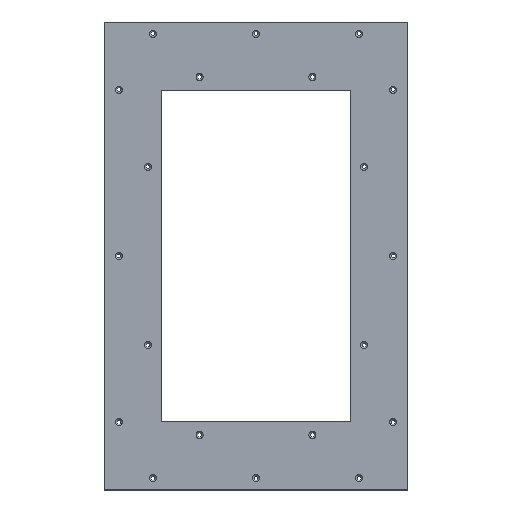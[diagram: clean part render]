
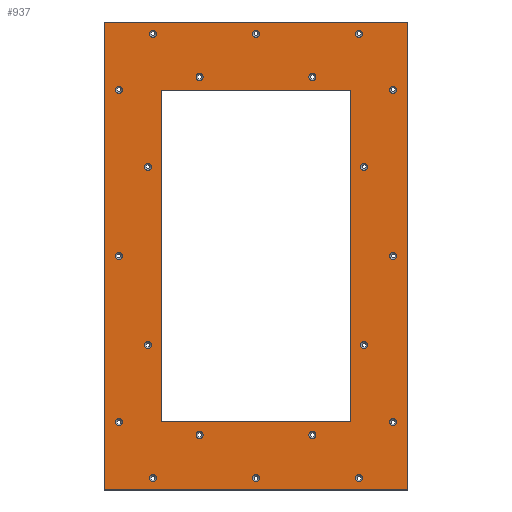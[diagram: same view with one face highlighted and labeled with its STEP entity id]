
A CAD part, top view. The second image highlights one B-rep face of the part: STEP entity #937.
In plain terms, the highlighted planar face has unit normal (0, 0, 1).
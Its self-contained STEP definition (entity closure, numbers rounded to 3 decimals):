
#19=FACE_BOUND('',#190,.T.);
#20=FACE_BOUND('',#191,.T.);
#21=FACE_BOUND('',#192,.T.);
#22=FACE_BOUND('',#193,.T.);
#23=FACE_BOUND('',#194,.T.);
#24=FACE_BOUND('',#195,.T.);
#25=FACE_BOUND('',#196,.T.);
#26=FACE_BOUND('',#197,.T.);
#27=FACE_BOUND('',#198,.T.);
#28=FACE_BOUND('',#199,.T.);
#29=FACE_BOUND('',#200,.T.);
#30=FACE_BOUND('',#201,.T.);
#31=FACE_BOUND('',#202,.T.);
#32=FACE_BOUND('',#203,.T.);
#33=FACE_BOUND('',#204,.T.);
#34=FACE_BOUND('',#205,.T.);
#35=FACE_BOUND('',#206,.T.);
#36=FACE_BOUND('',#207,.T.);
#37=FACE_BOUND('',#208,.T.);
#38=FACE_BOUND('',#209,.T.);
#39=FACE_BOUND('',#210,.T.);
#69=PLANE('',#1062);
#139=FACE_OUTER_BOUND('',#189,.T.);
#189=EDGE_LOOP('',(#813,#814,#815,#816));
#190=EDGE_LOOP('',(#817));
#191=EDGE_LOOP('',(#818));
#192=EDGE_LOOP('',(#819));
#193=EDGE_LOOP('',(#820));
#194=EDGE_LOOP('',(#821));
#195=EDGE_LOOP('',(#822));
#196=EDGE_LOOP('',(#823));
#197=EDGE_LOOP('',(#824));
#198=EDGE_LOOP('',(#825));
#199=EDGE_LOOP('',(#826));
#200=EDGE_LOOP('',(#827));
#201=EDGE_LOOP('',(#828));
#202=EDGE_LOOP('',(#829));
#203=EDGE_LOOP('',(#830));
#204=EDGE_LOOP('',(#831));
#205=EDGE_LOOP('',(#832));
#206=EDGE_LOOP('',(#833));
#207=EDGE_LOOP('',(#834));
#208=EDGE_LOOP('',(#835));
#209=EDGE_LOOP('',(#836));
#210=EDGE_LOOP('',(#837,#838,#839,#840));
#273=LINE('',#1560,#337);
#277=LINE('',#1568,#341);
#280=LINE('',#1574,#344);
#283=LINE('',#1579,#347);
#285=LINE('',#1584,#349);
#289=LINE('',#1592,#353);
#292=LINE('',#1598,#356);
#295=LINE('',#1603,#359);
#337=VECTOR('',#1311,10.);
#341=VECTOR('',#1317,10.);
#344=VECTOR('',#1322,10.);
#347=VECTOR('',#1327,10.);
#349=VECTOR('',#1331,10.);
#353=VECTOR('',#1337,10.);
#356=VECTOR('',#1342,10.);
#359=VECTOR('',#1347,10.);
#361=CIRCLE('',#955,3.75);
#364=CIRCLE('',#960,3.75);
#367=CIRCLE('',#965,3.75);
#370=CIRCLE('',#970,3.75);
#373=CIRCLE('',#975,3.75);
#376=CIRCLE('',#980,3.75);
#379=CIRCLE('',#985,3.75);
#382=CIRCLE('',#990,3.75);
#385=CIRCLE('',#995,3.75);
#388=CIRCLE('',#1000,3.75);
#391=CIRCLE('',#1005,3.75);
#394=CIRCLE('',#1010,3.75);
#397=CIRCLE('',#1015,3.75);
#400=CIRCLE('',#1020,3.75);
#403=CIRCLE('',#1025,3.75);
#406=CIRCLE('',#1030,3.75);
#409=CIRCLE('',#1035,3.75);
#412=CIRCLE('',#1040,3.75);
#415=CIRCLE('',#1045,3.75);
#418=CIRCLE('',#1050,3.75);
#421=VERTEX_POINT('',#1358);
#424=VERTEX_POINT('',#1368);
#427=VERTEX_POINT('',#1378);
#430=VERTEX_POINT('',#1388);
#433=VERTEX_POINT('',#1398);
#436=VERTEX_POINT('',#1408);
#439=VERTEX_POINT('',#1418);
#442=VERTEX_POINT('',#1428);
#445=VERTEX_POINT('',#1438);
#448=VERTEX_POINT('',#1448);
#451=VERTEX_POINT('',#1458);
#454=VERTEX_POINT('',#1468);
#457=VERTEX_POINT('',#1478);
#460=VERTEX_POINT('',#1488);
#463=VERTEX_POINT('',#1498);
#466=VERTEX_POINT('',#1508);
#469=VERTEX_POINT('',#1518);
#472=VERTEX_POINT('',#1528);
#475=VERTEX_POINT('',#1538);
#478=VERTEX_POINT('',#1548);
#481=VERTEX_POINT('',#1558);
#482=VERTEX_POINT('',#1559);
#485=VERTEX_POINT('',#1567);
#487=VERTEX_POINT('',#1573);
#489=VERTEX_POINT('',#1582);
#490=VERTEX_POINT('',#1583);
#493=VERTEX_POINT('',#1591);
#495=VERTEX_POINT('',#1597);
#497=EDGE_CURVE('',#421,#421,#361,.T.);
#502=EDGE_CURVE('',#424,#424,#364,.T.);
#507=EDGE_CURVE('',#427,#427,#367,.T.);
#512=EDGE_CURVE('',#430,#430,#370,.T.);
#517=EDGE_CURVE('',#433,#433,#373,.T.);
#522=EDGE_CURVE('',#436,#436,#376,.T.);
#527=EDGE_CURVE('',#439,#439,#379,.T.);
#532=EDGE_CURVE('',#442,#442,#382,.T.);
#537=EDGE_CURVE('',#445,#445,#385,.T.);
#542=EDGE_CURVE('',#448,#448,#388,.T.);
#547=EDGE_CURVE('',#451,#451,#391,.T.);
#552=EDGE_CURVE('',#454,#454,#394,.T.);
#557=EDGE_CURVE('',#457,#457,#397,.T.);
#562=EDGE_CURVE('',#460,#460,#400,.T.);
#567=EDGE_CURVE('',#463,#463,#403,.T.);
#572=EDGE_CURVE('',#466,#466,#406,.T.);
#577=EDGE_CURVE('',#469,#469,#409,.T.);
#582=EDGE_CURVE('',#472,#472,#412,.T.);
#587=EDGE_CURVE('',#475,#475,#415,.T.);
#592=EDGE_CURVE('',#478,#478,#418,.T.);
#597=EDGE_CURVE('',#481,#482,#273,.T.);
#601=EDGE_CURVE('',#482,#485,#277,.T.);
#604=EDGE_CURVE('',#485,#487,#280,.T.);
#607=EDGE_CURVE('',#487,#481,#283,.T.);
#609=EDGE_CURVE('',#489,#490,#285,.T.);
#613=EDGE_CURVE('',#493,#489,#289,.T.);
#616=EDGE_CURVE('',#495,#493,#292,.T.);
#619=EDGE_CURVE('',#490,#495,#295,.T.);
#813=ORIENTED_EDGE('',*,*,#619,.F.);
#814=ORIENTED_EDGE('',*,*,#609,.F.);
#815=ORIENTED_EDGE('',*,*,#613,.F.);
#816=ORIENTED_EDGE('',*,*,#616,.F.);
#817=ORIENTED_EDGE('',*,*,#497,.T.);
#818=ORIENTED_EDGE('',*,*,#502,.T.);
#819=ORIENTED_EDGE('',*,*,#507,.T.);
#820=ORIENTED_EDGE('',*,*,#512,.T.);
#821=ORIENTED_EDGE('',*,*,#517,.T.);
#822=ORIENTED_EDGE('',*,*,#522,.T.);
#823=ORIENTED_EDGE('',*,*,#527,.T.);
#824=ORIENTED_EDGE('',*,*,#532,.T.);
#825=ORIENTED_EDGE('',*,*,#537,.T.);
#826=ORIENTED_EDGE('',*,*,#542,.T.);
#827=ORIENTED_EDGE('',*,*,#547,.T.);
#828=ORIENTED_EDGE('',*,*,#552,.T.);
#829=ORIENTED_EDGE('',*,*,#557,.T.);
#830=ORIENTED_EDGE('',*,*,#562,.T.);
#831=ORIENTED_EDGE('',*,*,#567,.T.);
#832=ORIENTED_EDGE('',*,*,#572,.T.);
#833=ORIENTED_EDGE('',*,*,#577,.T.);
#834=ORIENTED_EDGE('',*,*,#582,.T.);
#835=ORIENTED_EDGE('',*,*,#587,.T.);
#836=ORIENTED_EDGE('',*,*,#592,.T.);
#837=ORIENTED_EDGE('',*,*,#607,.T.);
#838=ORIENTED_EDGE('',*,*,#597,.T.);
#839=ORIENTED_EDGE('',*,*,#601,.T.);
#840=ORIENTED_EDGE('',*,*,#604,.T.);
#937=ADVANCED_FACE('',(#139,#19,#20,#21,#22,#23,#24,#25,#26,#27,#28,#29,
#30,#31,#32,#33,#34,#35,#36,#37,#38,#39),#69,.T.);
#955=AXIS2_PLACEMENT_3D('',#1359,#1071,#1072);
#960=AXIS2_PLACEMENT_3D('',#1369,#1083,#1084);
#965=AXIS2_PLACEMENT_3D('',#1379,#1095,#1096);
#970=AXIS2_PLACEMENT_3D('',#1389,#1107,#1108);
#975=AXIS2_PLACEMENT_3D('',#1399,#1119,#1120);
#980=AXIS2_PLACEMENT_3D('',#1409,#1131,#1132);
#985=AXIS2_PLACEMENT_3D('',#1419,#1143,#1144);
#990=AXIS2_PLACEMENT_3D('',#1429,#1155,#1156);
#995=AXIS2_PLACEMENT_3D('',#1439,#1167,#1168);
#1000=AXIS2_PLACEMENT_3D('',#1449,#1179,#1180);
#1005=AXIS2_PLACEMENT_3D('',#1459,#1191,#1192);
#1010=AXIS2_PLACEMENT_3D('',#1469,#1203,#1204);
#1015=AXIS2_PLACEMENT_3D('',#1479,#1215,#1216);
#1020=AXIS2_PLACEMENT_3D('',#1489,#1227,#1228);
#1025=AXIS2_PLACEMENT_3D('',#1499,#1239,#1240);
#1030=AXIS2_PLACEMENT_3D('',#1509,#1251,#1252);
#1035=AXIS2_PLACEMENT_3D('',#1519,#1263,#1264);
#1040=AXIS2_PLACEMENT_3D('',#1529,#1275,#1276);
#1045=AXIS2_PLACEMENT_3D('',#1539,#1287,#1288);
#1050=AXIS2_PLACEMENT_3D('',#1549,#1299,#1300);
#1062=AXIS2_PLACEMENT_3D('',#1605,#1349,#1350);
#1071=DIRECTION('center_axis',(0.,0.,-1.));
#1072=DIRECTION('ref_axis',(1.,0.,0.));
#1083=DIRECTION('center_axis',(0.,0.,-1.));
#1084=DIRECTION('ref_axis',(1.,0.,0.));
#1095=DIRECTION('center_axis',(0.,0.,-1.));
#1096=DIRECTION('ref_axis',(1.,0.,0.));
#1107=DIRECTION('center_axis',(0.,0.,-1.));
#1108=DIRECTION('ref_axis',(1.,0.,0.));
#1119=DIRECTION('center_axis',(0.,0.,-1.));
#1120=DIRECTION('ref_axis',(1.,0.,0.));
#1131=DIRECTION('center_axis',(0.,0.,-1.));
#1132=DIRECTION('ref_axis',(1.,0.,0.));
#1143=DIRECTION('center_axis',(0.,0.,-1.));
#1144=DIRECTION('ref_axis',(1.,0.,0.));
#1155=DIRECTION('center_axis',(0.,0.,-1.));
#1156=DIRECTION('ref_axis',(1.,0.,0.));
#1167=DIRECTION('center_axis',(0.,0.,-1.));
#1168=DIRECTION('ref_axis',(1.,0.,0.));
#1179=DIRECTION('center_axis',(0.,0.,-1.));
#1180=DIRECTION('ref_axis',(1.,0.,0.));
#1191=DIRECTION('center_axis',(0.,0.,-1.));
#1192=DIRECTION('ref_axis',(1.,0.,0.));
#1203=DIRECTION('center_axis',(0.,0.,-1.));
#1204=DIRECTION('ref_axis',(1.,0.,0.));
#1215=DIRECTION('center_axis',(0.,0.,-1.));
#1216=DIRECTION('ref_axis',(1.,0.,0.));
#1227=DIRECTION('center_axis',(0.,0.,-1.));
#1228=DIRECTION('ref_axis',(1.,0.,0.));
#1239=DIRECTION('center_axis',(0.,0.,-1.));
#1240=DIRECTION('ref_axis',(1.,0.,0.));
#1251=DIRECTION('center_axis',(0.,0.,-1.));
#1252=DIRECTION('ref_axis',(1.,0.,0.));
#1263=DIRECTION('center_axis',(0.,0.,-1.));
#1264=DIRECTION('ref_axis',(1.,0.,0.));
#1275=DIRECTION('center_axis',(0.,0.,-1.));
#1276=DIRECTION('ref_axis',(1.,0.,0.));
#1287=DIRECTION('center_axis',(0.,0.,-1.));
#1288=DIRECTION('ref_axis',(1.,0.,0.));
#1299=DIRECTION('center_axis',(0.,0.,-1.));
#1300=DIRECTION('ref_axis',(1.,0.,0.));
#1311=DIRECTION('',(0.,1.,0.));
#1317=DIRECTION('',(1.,0.,0.));
#1322=DIRECTION('',(0.,-1.,0.));
#1327=DIRECTION('',(-1.,0.,0.));
#1331=DIRECTION('',(0.,-1.,0.));
#1337=DIRECTION('',(1.,0.,0.));
#1342=DIRECTION('',(0.,1.,0.));
#1347=DIRECTION('',(-1.,0.,0.));
#1349=DIRECTION('center_axis',(0.,0.,1.));
#1350=DIRECTION('ref_axis',(1.,0.,0.));
#1358=CARTESIAN_POINT('',(105.25,12.5,0.));
#1359=CARTESIAN_POINT('Origin',(109.,12.5,0.));
#1368=CARTESIAN_POINT('',(141.25,71.7,0.));
#1369=CARTESIAN_POINT('Origin',(145.,71.7,0.));
#1378=CARTESIAN_POINT('',(-63.35,58.2,0.));
#1379=CARTESIAN_POINT('Origin',(-59.6,58.2,0.));
#1388=CARTESIAN_POINT('',(110.55,153.2,0.));
#1389=CARTESIAN_POINT('Origin',(114.3,153.2,0.));
#1398=CARTESIAN_POINT('',(141.25,247.5,0.));
#1399=CARTESIAN_POINT('Origin',(145.,247.5,0.));
#1408=CARTESIAN_POINT('',(110.55,341.8,0.));
#1409=CARTESIAN_POINT('Origin',(114.3,341.8,0.));
#1418=CARTESIAN_POINT('',(141.25,423.3,0.));
#1419=CARTESIAN_POINT('Origin',(145.,423.3,0.));
#1428=CARTESIAN_POINT('',(55.85,436.8,0.));
#1429=CARTESIAN_POINT('Origin',(59.6,436.8,0.));
#1438=CARTESIAN_POINT('',(105.25,482.5,0.));
#1439=CARTESIAN_POINT('Origin',(109.,482.5,0.));
#1448=CARTESIAN_POINT('',(-112.75,482.5,0.));
#1449=CARTESIAN_POINT('Origin',(-109.,482.5,0.));
#1458=CARTESIAN_POINT('',(-3.75,482.5,0.));
#1459=CARTESIAN_POINT('Origin',(0.,482.5,0.));
#1468=CARTESIAN_POINT('',(-63.35,436.8,0.));
#1469=CARTESIAN_POINT('Origin',(-59.6,436.8,0.));
#1478=CARTESIAN_POINT('',(-148.75,423.3,0.));
#1479=CARTESIAN_POINT('Origin',(-145.,423.3,0.));
#1488=CARTESIAN_POINT('',(-118.05,341.8,0.));
#1489=CARTESIAN_POINT('Origin',(-114.3,341.8,0.));
#1498=CARTESIAN_POINT('',(-148.75,247.5,0.));
#1499=CARTESIAN_POINT('Origin',(-145.,247.5,0.));
#1508=CARTESIAN_POINT('',(-118.05,153.2,0.));
#1509=CARTESIAN_POINT('Origin',(-114.3,153.2,0.));
#1518=CARTESIAN_POINT('',(-148.75,71.7,0.));
#1519=CARTESIAN_POINT('Origin',(-145.,71.7,0.));
#1528=CARTESIAN_POINT('',(55.85,58.2,0.));
#1529=CARTESIAN_POINT('Origin',(59.6,58.2,0.));
#1538=CARTESIAN_POINT('',(-112.75,12.5,0.));
#1539=CARTESIAN_POINT('Origin',(-109.,12.5,0.));
#1548=CARTESIAN_POINT('',(-3.75,12.5,0.));
#1549=CARTESIAN_POINT('Origin',(0.,12.5,0.));
#1558=CARTESIAN_POINT('',(-100.,72.5,0.));
#1559=CARTESIAN_POINT('',(-100.,422.5,0.));
#1560=CARTESIAN_POINT('',(-100.,72.5,0.));
#1567=CARTESIAN_POINT('',(100.,422.5,0.));
#1568=CARTESIAN_POINT('',(-100.,422.5,0.));
#1573=CARTESIAN_POINT('',(100.,72.5,0.));
#1574=CARTESIAN_POINT('',(100.,422.5,0.));
#1579=CARTESIAN_POINT('',(100.,72.5,0.));
#1582=CARTESIAN_POINT('',(160.,495.,0.));
#1583=CARTESIAN_POINT('',(160.,0.,0.));
#1584=CARTESIAN_POINT('',(160.,495.,0.));
#1591=CARTESIAN_POINT('',(-160.,495.,0.));
#1592=CARTESIAN_POINT('',(-160.,495.,0.));
#1597=CARTESIAN_POINT('',(-160.,0.,0.));
#1598=CARTESIAN_POINT('',(-160.,0.,0.));
#1603=CARTESIAN_POINT('',(160.,0.,0.));
#1605=CARTESIAN_POINT('Origin',(0.,247.5,0.));
